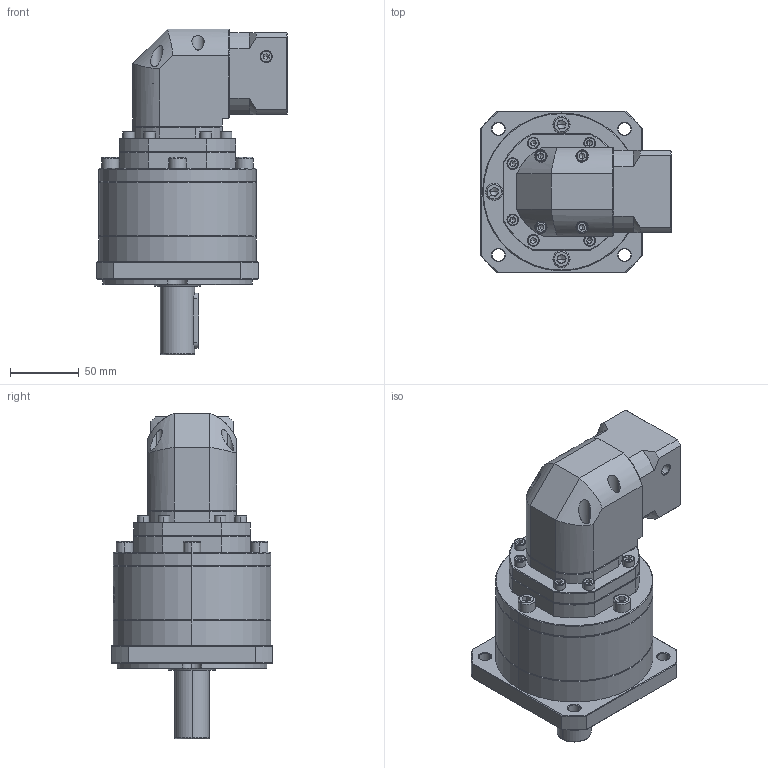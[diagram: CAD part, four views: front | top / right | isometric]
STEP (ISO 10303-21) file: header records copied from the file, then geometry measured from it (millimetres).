
FILE_DESCRIPTION (( 'STEP AP214' ), '1' );
FILE_NAME ('ZFR120A-D25-L3-P2-8-30-46-M4.step', '2023-08-27T09:48:53', ( '' ), ( '' ), 'SwSTEP 2.0', 'SolidWorks 2016', '' );
FILE_SCHEMA (( 'AUTOMOTIVE_DESIGN' ));
Length unit declared in the file: millimetre
Products named in the file (1): ZFR120A-D25-L3-P2-8-30-46-M4
Bounding box: 139.2 x 118 x 237.5 mm (x, y, z)
Volume: 1474109.8 mm3; surface area: 141047.2 mm2
Topology: 6 solids, 6 shells, 2479 faces, 6622 edges, 4264 vertices
Faces by surface type: plane 1170, bspline 499, cylinder 446, cone 344, torus 20
Entity records: 146923 total; most frequent: CARTESIAN_POINT 63678, ORIENTED_EDGE 13152, DIRECTION 9630, EDGE_CURVE 6576, VERTEX_POINT 4264, VECTOR 3398, LINE 3398, AXIS2_PLACEMENT_3D 3116
